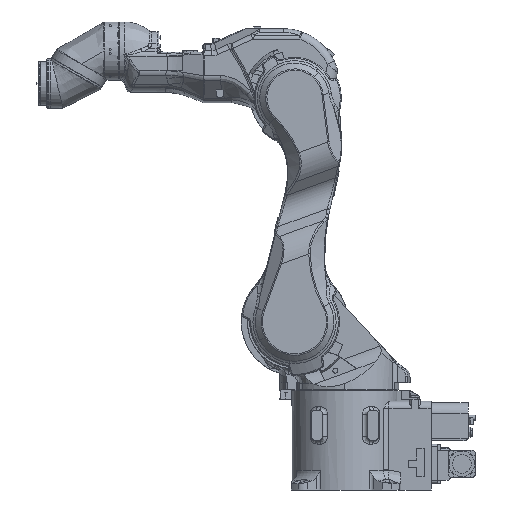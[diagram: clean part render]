
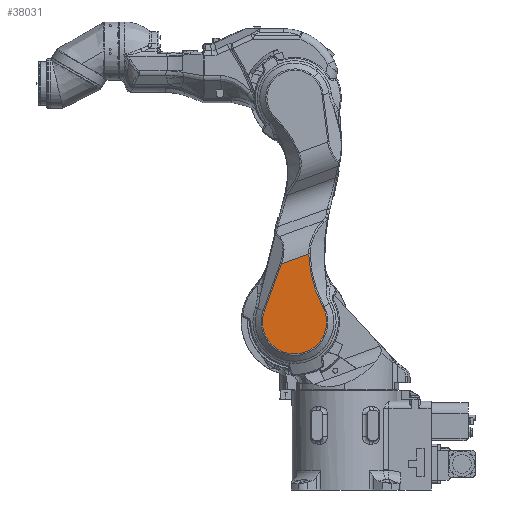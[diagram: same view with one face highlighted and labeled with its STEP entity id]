
A CAD part, left-side view. The second image highlights one B-rep face of the part: STEP entity #38031.
In plain terms, the highlighted planar face has unit normal (-1, 0, 0).
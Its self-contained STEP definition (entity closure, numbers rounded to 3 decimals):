
#33129=CARTESIAN_POINT('Vertex',(-200.,34.923,155.289)) ;
#33136=CARTESIAN_POINT('Vertex',(-200.,80.747,29.389)) ;
#33139=CARTESIAN_POINT('Line Origine',(-200.,59.847,86.811)) ;
#33676=CARTESIAN_POINT('Vertex',(-200.,-38.089,181.863)) ;
#33679=CARTESIAN_POINT('Line Origine',(-200.,-17.994,174.549)) ;
#33857=CARTESIAN_POINT('Axis2P3D Location',(-200.,0.,0.)) ;
#37978=CARTESIAN_POINT('Vertex',(-200.,57.424,-63.924)) ;
#37981=CARTESIAN_POINT('Axis2P3D Location',(-200.,0.,0.)) ;
#38012=CARTESIAN_POINT('Axis2P3D Location',(-200.,0.,0.)) ;
#38016=CARTESIAN_POINT('Vertex',(-200.,-75.82,40.437)) ;
#38019=CARTESIAN_POINT('Axis2P3D Location',(-200.,-360.,192.)) ;
#33140=DIRECTION('Vector Direction',(0.,0.342,-0.94)) ;
#33680=DIRECTION('Vector Direction',(0.,0.94,-0.342)) ;
#33858=DIRECTION('Axis2P3D Direction',(1.,0.,0.)) ;
#33859=DIRECTION('Axis2P3D XDirection',(0.,1.,0.)) ;
#37982=DIRECTION('Axis2P3D Direction',(1.,0.,0.)) ;
#38013=DIRECTION('Axis2P3D Direction',(1.,0.,0.)) ;
#38020=DIRECTION('Axis2P3D Direction',(1.,0.,0.)) ;
#33860=AXIS2_PLACEMENT_3D('Plane Axis2P3D',#33857,#33858,#33859) ;
#37983=AXIS2_PLACEMENT_3D('Circle Axis2P3D',#37981,#37982,$) ;
#38014=AXIS2_PLACEMENT_3D('Circle Axis2P3D',#38012,#38013,$) ;
#38021=AXIS2_PLACEMENT_3D('Circle Axis2P3D',#38019,#38020,$) ;
#38025=ORIENTED_EDGE('',*,*,#33143,.T.) ;
#38026=ORIENTED_EDGE('',*,*,#37985,.T.) ;
#38027=ORIENTED_EDGE('',*,*,#38018,.T.) ;
#38028=ORIENTED_EDGE('',*,*,#38023,.T.) ;
#38029=ORIENTED_EDGE('',*,*,#33683,.T.) ;
#33141=VECTOR('Line Direction',#33140,1.) ;
#33681=VECTOR('Line Direction',#33680,1.) ;
#38031=ADVANCED_FACE('J2',(#38030),#33861,.F.) ;
#37984=CIRCLE('generated circle',#37983,85.929) ;
#38015=CIRCLE('generated circle',#38014,85.929) ;
#38022=CIRCLE('generated circle',#38021,322.071) ;
#33143=EDGE_CURVE('',#33130,#33137,#33142,.T.) ;
#33683=EDGE_CURVE('',#33677,#33130,#33682,.T.) ;
#37985=EDGE_CURVE('',#33137,#37979,#37984,.F.) ;
#38018=EDGE_CURVE('',#37979,#38017,#38015,.F.) ;
#38023=EDGE_CURVE('',#38017,#33677,#38022,.T.) ;
#38024=EDGE_LOOP('',(#38025,#38026,#38027,#38028,#38029)) ;
#38030=FACE_OUTER_BOUND('',#38024,.T.) ;
#33142=LINE('Line',#33139,#33141) ;
#33682=LINE('Line',#33679,#33681) ;
#33861=PLANE('',#33860) ;
#33130=VERTEX_POINT('',#33129) ;
#33137=VERTEX_POINT('',#33136) ;
#33677=VERTEX_POINT('',#33676) ;
#37979=VERTEX_POINT('',#37978) ;
#38017=VERTEX_POINT('',#38016) ;
